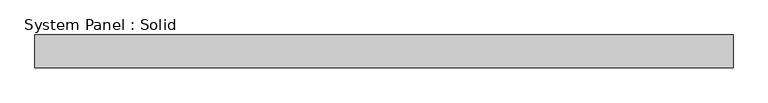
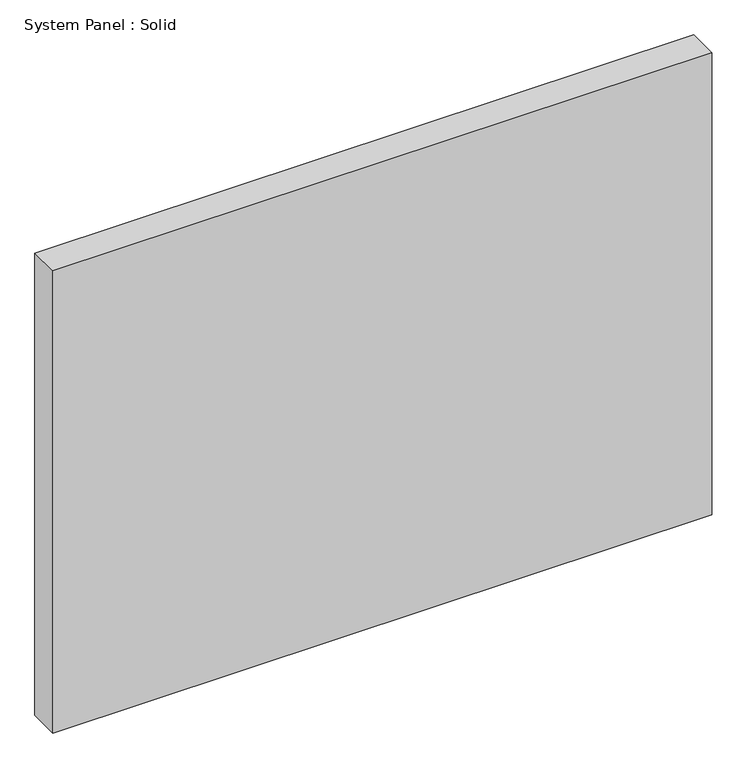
"""IFC4 building model written with IfcOpenShell, lengths in millimetres: plate geometry, System Panel : Solid."""

from ifc_helpers import new_model, si_unit, origin, origin_with_axes, place, context, project, spatial, polyline, outline, extrude, source, transform, mapped, element, save


def system_panel_solid_4450b384(model_context):
    return source(origin(), model_context, "Body", "SweptSolid", [
        extrude(outline(polyline([(672.0416667, -19.05), (-672.0416667, -19.05), (-672.0416667, 44.45), (672.0416667, 44.45), (672.0416667, -19.05)])), origin_with_axes(), (0.0, 0.0, 1.0), 996.95),
    ])


if __name__ == "__main__":
    model = new_model("IFC4")
    model_context = context("Model", 3, world=origin())
    ifc_project = project(units=[si_unit("LENGTHUNIT", "METRE", prefix="MILLI")], contexts=[model_context])
    site = spatial("IfcSite", under=ifc_project)
    building = spatial("IfcBuilding", under=site)
    placement = place(None, origin())
    system_panel_solid_shape = system_panel_solid_4450b384(model_context)
    element("IfcPlate", 1, ObjectType="System Panel : Solid", at=placement, inside=building, context=model_context, shape_type="MappedRepresentation", body=[
        mapped(system_panel_solid_shape, transform((0.0, 0.0, 0.0), x_axis=(1.0, 0.0, 0.0), y_axis=(0.0, 1.0, 0.0), z_axis=(0.0, 0.0, 1.0))),
    ])
    save(model, "model.ifc")
